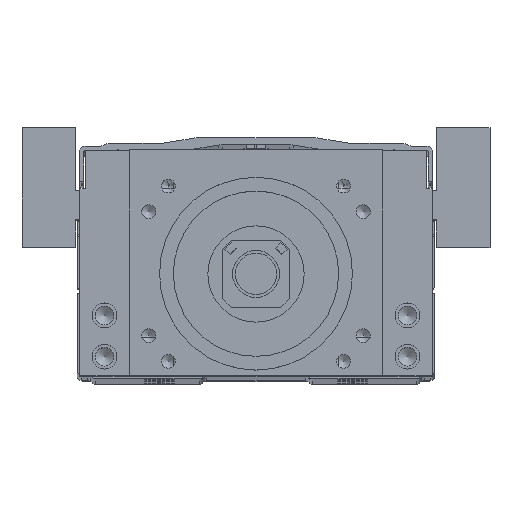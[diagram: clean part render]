
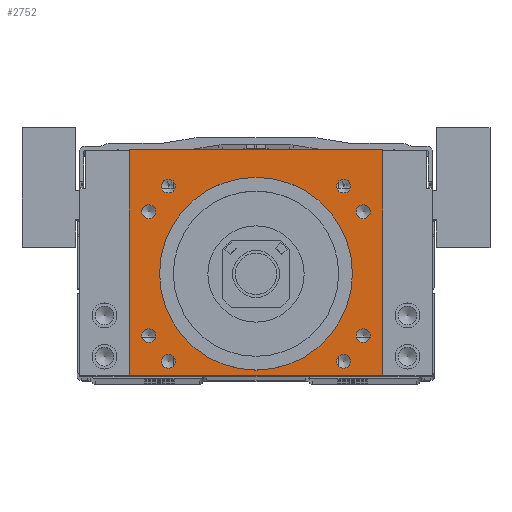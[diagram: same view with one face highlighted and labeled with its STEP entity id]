
A CAD part, top view. The second image highlights one B-rep face of the part: STEP entity #2752.
In plain terms, the highlighted planar face has unit normal (0, 0, 1).
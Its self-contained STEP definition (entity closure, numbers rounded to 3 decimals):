
#2752=ADVANCED_FACE('',(#7389,#7390,#7391,#7392,#7393,#7394,#7395,#7396,
#7397,#7398),#3795,.T.);
#3795=PLANE('',#19985);
#4351=LINE('',#26766,#5780);
#4724=LINE('',#28231,#6153);
#4729=LINE('',#28239,#6158);
#4734=LINE('',#28248,#6163);
#5780=VECTOR('',#21517,1.);
#6153=VECTOR('',#22704,1.);
#6158=VECTOR('',#22715,1.);
#6163=VECTOR('',#22722,1.);
#7389=FACE_BOUND('',#8572,.T.);
#7390=FACE_BOUND('',#8573,.T.);
#7391=FACE_BOUND('',#8574,.T.);
#7392=FACE_BOUND('',#8575,.T.);
#7393=FACE_BOUND('',#8576,.T.);
#7394=FACE_BOUND('',#8577,.T.);
#7395=FACE_BOUND('',#8578,.T.);
#7396=FACE_BOUND('',#8579,.T.);
#7397=FACE_BOUND('',#8580,.T.);
#7398=FACE_BOUND('',#8581,.T.);
#8572=EDGE_LOOP('',(#11107,#11108,#11109,#11110));
#8573=EDGE_LOOP('',(#11111));
#8574=EDGE_LOOP('',(#11112));
#8575=EDGE_LOOP('',(#11113));
#8576=EDGE_LOOP('',(#11114));
#8577=EDGE_LOOP('',(#11115));
#8578=EDGE_LOOP('',(#11116));
#8579=EDGE_LOOP('',(#11117));
#8580=EDGE_LOOP('',(#11118));
#8581=EDGE_LOOP('',(#11119));
#11107=ORIENTED_EDGE('',*,*,#17100,.T.);
#11108=ORIENTED_EDGE('',*,*,#16509,.T.);
#11109=ORIENTED_EDGE('',*,*,#17095,.T.);
#11110=ORIENTED_EDGE('',*,*,#17105,.T.);
#11111=ORIENTED_EDGE('',*,*,#17113,.F.);
#11112=ORIENTED_EDGE('',*,*,#17114,.T.);
#11113=ORIENTED_EDGE('',*,*,#17115,.T.);
#11114=ORIENTED_EDGE('',*,*,#17116,.F.);
#11115=ORIENTED_EDGE('',*,*,#17112,.F.);
#11116=ORIENTED_EDGE('',*,*,#17117,.T.);
#11117=ORIENTED_EDGE('',*,*,#17118,.T.);
#11118=ORIENTED_EDGE('',*,*,#17119,.T.);
#11119=ORIENTED_EDGE('',*,*,#17120,.T.);
#14700=VERTEX_POINT('',#26765);
#14701=VERTEX_POINT('',#26767);
#15120=VERTEX_POINT('',#28229);
#15122=VERTEX_POINT('',#28240);
#15128=VERTEX_POINT('',#28264);
#15129=VERTEX_POINT('',#28267);
#15130=VERTEX_POINT('',#28269);
#15131=VERTEX_POINT('',#28271);
#15132=VERTEX_POINT('',#28273);
#15133=VERTEX_POINT('',#28275);
#15134=VERTEX_POINT('',#28277);
#15135=VERTEX_POINT('',#28279);
#15136=VERTEX_POINT('',#28281);
#16509=EDGE_CURVE('',#14701,#14700,#4351,.T.);
#17095=EDGE_CURVE('',#14700,#15120,#4724,.T.);
#17100=EDGE_CURVE('',#15122,#14701,#4729,.T.);
#17105=EDGE_CURVE('',#15120,#15122,#4734,.T.);
#17112=EDGE_CURVE('',#15128,#15128,#18983,.T.);
#17113=EDGE_CURVE('',#15129,#15129,#18984,.T.);
#17114=EDGE_CURVE('',#15130,#15130,#18985,.T.);
#17115=EDGE_CURVE('',#15131,#15131,#18986,.T.);
#17116=EDGE_CURVE('',#15132,#15132,#18987,.T.);
#17117=EDGE_CURVE('',#15133,#15133,#18988,.T.);
#17118=EDGE_CURVE('',#15134,#15134,#18989,.T.);
#17119=EDGE_CURVE('',#15135,#15135,#18990,.T.);
#17120=EDGE_CURVE('',#15136,#15136,#18991,.T.);
#18983=CIRCLE('',#19975,35.015);
#18984=CIRCLE('',#19977,2.5);
#18985=CIRCLE('',#19978,2.5);
#18986=CIRCLE('',#19979,2.5);
#18987=CIRCLE('',#19980,2.5);
#18988=CIRCLE('',#19981,2.5);
#18989=CIRCLE('',#19982,2.5);
#18990=CIRCLE('',#19983,2.5);
#18991=CIRCLE('',#19984,2.5);
#19975=AXIS2_PLACEMENT_3D('',#28263,#22741,#22742);
#19977=AXIS2_PLACEMENT_3D('',#28266,#22745,#22746);
#19978=AXIS2_PLACEMENT_3D('',#28268,#22747,#22748);
#19979=AXIS2_PLACEMENT_3D('',#28270,#22749,#22750);
#19980=AXIS2_PLACEMENT_3D('',#28272,#22751,#22752);
#19981=AXIS2_PLACEMENT_3D('',#28274,#22753,#22754);
#19982=AXIS2_PLACEMENT_3D('',#28276,#22755,#22756);
#19983=AXIS2_PLACEMENT_3D('',#28278,#22757,#22758);
#19984=AXIS2_PLACEMENT_3D('',#28280,#22759,#22760);
#19985=AXIS2_PLACEMENT_3D('',#28282,#22761,#22762);
#21517=DIRECTION('',(-1.,0.,0.));
#22704=DIRECTION('',(0.,-1.,0.));
#22715=DIRECTION('',(0.,1.,0.));
#22722=DIRECTION('',(1.,0.,0.));
#22741=DIRECTION('',(0.,0.,1.));
#22742=DIRECTION('',(1.,0.,0.));
#22745=DIRECTION('',(0.,0.,1.));
#22746=DIRECTION('',(-1.,0.,0.));
#22747=DIRECTION('',(0.,0.,-1.));
#22748=DIRECTION('',(1.,0.,0.));
#22749=DIRECTION('',(0.,0.,-1.));
#22750=DIRECTION('',(1.,0.,0.));
#22751=DIRECTION('',(0.,0.,1.));
#22752=DIRECTION('',(-1.,0.,0.));
#22753=DIRECTION('',(0.,0.,-1.));
#22754=DIRECTION('',(1.,0.,0.));
#22755=DIRECTION('',(0.,0.,-1.));
#22756=DIRECTION('',(1.,0.,0.));
#22757=DIRECTION('',(0.,0.,-1.));
#22758=DIRECTION('',(1.,0.,0.));
#22759=DIRECTION('',(0.,0.,-1.));
#22760=DIRECTION('',(1.,0.,0.));
#22761=DIRECTION('',(0.,0.,1.));
#22762=DIRECTION('',(-1.,0.,0.));
#26765=CARTESIAN_POINT('',(-46.,83.,100.));
#26766=CARTESIAN_POINT('',(0.,83.,100.));
#26767=CARTESIAN_POINT('',(46.,83.,100.));
#28229=CARTESIAN_POINT('',(-46.,1.,100.));
#28231=CARTESIAN_POINT('',(-46.,38.,100.));
#28239=CARTESIAN_POINT('',(46.,38.,100.));
#28240=CARTESIAN_POINT('',(46.,1.,100.));
#28248=CARTESIAN_POINT('',(0.,1.,100.));
#28263=CARTESIAN_POINT('',(0.,38.,100.));
#28264=CARTESIAN_POINT('',(35.015,38.,100.));
#28266=CARTESIAN_POINT('',(-38.971,15.5,100.));
#28267=CARTESIAN_POINT('',(-41.471,15.5,100.));
#28268=CARTESIAN_POINT('',(38.971,60.5,100.));
#28269=CARTESIAN_POINT('',(41.471,60.5,100.));
#28270=CARTESIAN_POINT('',(38.971,15.5,100.));
#28271=CARTESIAN_POINT('',(41.471,15.5,100.));
#28272=CARTESIAN_POINT('',(-38.971,60.5,100.));
#28273=CARTESIAN_POINT('',(-41.471,60.5,100.));
#28274=CARTESIAN_POINT('',(-31.82,69.82,100.));
#28275=CARTESIAN_POINT('',(-29.32,69.82,100.));
#28276=CARTESIAN_POINT('',(-31.82,6.18,100.));
#28277=CARTESIAN_POINT('',(-29.32,6.18,100.));
#28278=CARTESIAN_POINT('',(31.82,6.18,100.));
#28279=CARTESIAN_POINT('',(34.32,6.18,100.));
#28280=CARTESIAN_POINT('',(31.82,69.82,100.));
#28281=CARTESIAN_POINT('',(34.32,69.82,100.));
#28282=CARTESIAN_POINT('',(0.,38.,100.));
